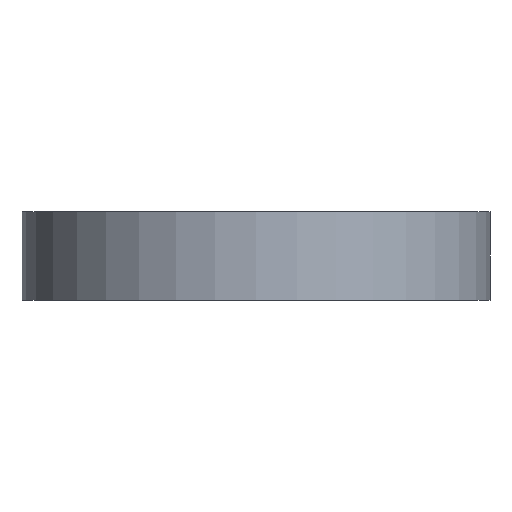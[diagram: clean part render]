
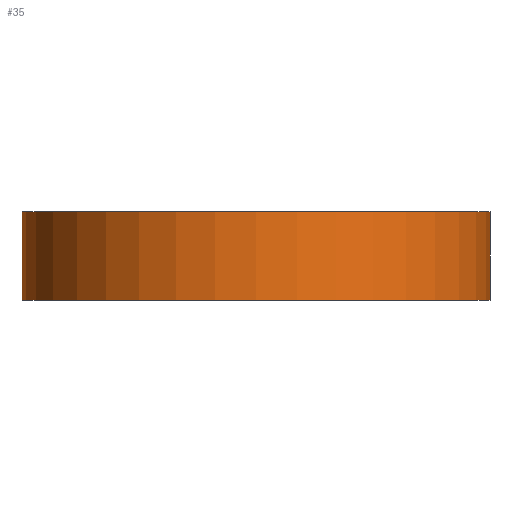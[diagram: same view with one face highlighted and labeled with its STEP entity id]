
A CAD part, front view. The second image highlights one B-rep face of the part: STEP entity #35.
In plain terms, the highlighted cylindrical face has radius 18.5 mm (diameter 37 mm), a full revolution.
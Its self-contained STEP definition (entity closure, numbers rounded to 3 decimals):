
#35 = ADVANCED_FACE('',(#36),#49,.T.);
#36 = FACE_BOUND('',#37,.T.);
#37 = EDGE_LOOP('',(#38,#72,#95,#122));
#38 = ORIENTED_EDGE('',*,*,#39,.F.);
#39 = EDGE_CURVE('',#40,#40,#42,.T.);
#40 = VERTEX_POINT('',#41);
#41 = CARTESIAN_POINT('',(18.5,0.,7.));
#42 = SURFACE_CURVE('',#43,(#48,#60),.PCURVE_S1.);
#43 = CIRCLE('',#44,18.5);
#44 = AXIS2_PLACEMENT_3D('',#45,#46,#47);
#45 = CARTESIAN_POINT('',(0.,0.,7.));
#46 = DIRECTION('',(0.,0.,1.));
#47 = DIRECTION('',(1.,0.,-0.));
#48 = PCURVE('',#49,#54);
#49 = CYLINDRICAL_SURFACE('',#50,18.5);
#50 = AXIS2_PLACEMENT_3D('',#51,#52,#53);
#51 = CARTESIAN_POINT('',(0.,0.,0.));
#52 = DIRECTION('',(0.,0.,1.));
#53 = DIRECTION('',(1.,0.,-0.));
#54 = DEFINITIONAL_REPRESENTATION('',(#55),#59);
#55 = LINE('',#56,#57);
#56 = CARTESIAN_POINT('',(0.,7.));
#57 = VECTOR('',#58,1.);
#58 = DIRECTION('',(1.,0.));
#59 = ( GEOMETRIC_REPRESENTATION_CONTEXT(2) 
PARAMETRIC_REPRESENTATION_CONTEXT() REPRESENTATION_CONTEXT('2D SPACE',''
  ) );
#60 = PCURVE('',#61,#66);
#61 = PLANE('',#62);
#62 = AXIS2_PLACEMENT_3D('',#63,#64,#65);
#63 = CARTESIAN_POINT('',(0.,0.,7.));
#64 = DIRECTION('',(0.,0.,1.));
#65 = DIRECTION('',(1.,0.,-0.));
#66 = DEFINITIONAL_REPRESENTATION('',(#67),#71);
#67 = CIRCLE('',#68,18.5);
#68 = AXIS2_PLACEMENT_2D('',#69,#70);
#69 = CARTESIAN_POINT('',(0.,0.));
#70 = DIRECTION('',(1.,0.));
#71 = ( GEOMETRIC_REPRESENTATION_CONTEXT(2) 
PARAMETRIC_REPRESENTATION_CONTEXT() REPRESENTATION_CONTEXT('2D SPACE',''
  ) );
#72 = ORIENTED_EDGE('',*,*,#73,.F.);
#73 = EDGE_CURVE('',#74,#40,#76,.T.);
#74 = VERTEX_POINT('',#75);
#75 = CARTESIAN_POINT('',(18.5,0.,0.));
#76 = SEAM_CURVE('',#77,(#81,#88),.PCURVE_S1.);
#77 = LINE('',#78,#79);
#78 = CARTESIAN_POINT('',(18.5,0.,0.));
#79 = VECTOR('',#80,1.);
#80 = DIRECTION('',(0.,0.,1.));
#81 = PCURVE('',#49,#82);
#82 = DEFINITIONAL_REPRESENTATION('',(#83),#87);
#83 = LINE('',#84,#85);
#84 = CARTESIAN_POINT('',(6.283,-0.));
#85 = VECTOR('',#86,1.);
#86 = DIRECTION('',(0.,1.));
#87 = ( GEOMETRIC_REPRESENTATION_CONTEXT(2) 
PARAMETRIC_REPRESENTATION_CONTEXT() REPRESENTATION_CONTEXT('2D SPACE',''
  ) );
#88 = PCURVE('',#49,#89);
#89 = DEFINITIONAL_REPRESENTATION('',(#90),#94);
#90 = LINE('',#91,#92);
#91 = CARTESIAN_POINT('',(0.,-0.));
#92 = VECTOR('',#93,1.);
#93 = DIRECTION('',(0.,1.));
#94 = ( GEOMETRIC_REPRESENTATION_CONTEXT(2) 
PARAMETRIC_REPRESENTATION_CONTEXT() REPRESENTATION_CONTEXT('2D SPACE',''
  ) );
#95 = ORIENTED_EDGE('',*,*,#96,.T.);
#96 = EDGE_CURVE('',#74,#74,#97,.T.);
#97 = SURFACE_CURVE('',#98,(#103,#110),.PCURVE_S1.);
#98 = CIRCLE('',#99,18.5);
#99 = AXIS2_PLACEMENT_3D('',#100,#101,#102);
#100 = CARTESIAN_POINT('',(0.,0.,0.));
#101 = DIRECTION('',(0.,0.,1.));
#102 = DIRECTION('',(1.,0.,-0.));
#103 = PCURVE('',#49,#104);
#104 = DEFINITIONAL_REPRESENTATION('',(#105),#109);
#105 = LINE('',#106,#107);
#106 = CARTESIAN_POINT('',(0.,0.));
#107 = VECTOR('',#108,1.);
#108 = DIRECTION('',(1.,0.));
#109 = ( GEOMETRIC_REPRESENTATION_CONTEXT(2) 
PARAMETRIC_REPRESENTATION_CONTEXT() REPRESENTATION_CONTEXT('2D SPACE',''
  ) );
#110 = PCURVE('',#111,#116);
#111 = PLANE('',#112);
#112 = AXIS2_PLACEMENT_3D('',#113,#114,#115);
#113 = CARTESIAN_POINT('',(0.,0.,0.));
#114 = DIRECTION('',(0.,0.,1.));
#115 = DIRECTION('',(1.,0.,-0.));
#116 = DEFINITIONAL_REPRESENTATION('',(#117),#121);
#117 = CIRCLE('',#118,18.5);
#118 = AXIS2_PLACEMENT_2D('',#119,#120);
#119 = CARTESIAN_POINT('',(0.,0.));
#120 = DIRECTION('',(1.,0.));
#121 = ( GEOMETRIC_REPRESENTATION_CONTEXT(2) 
PARAMETRIC_REPRESENTATION_CONTEXT() REPRESENTATION_CONTEXT('2D SPACE',''
  ) );
#122 = ORIENTED_EDGE('',*,*,#73,.T.);
